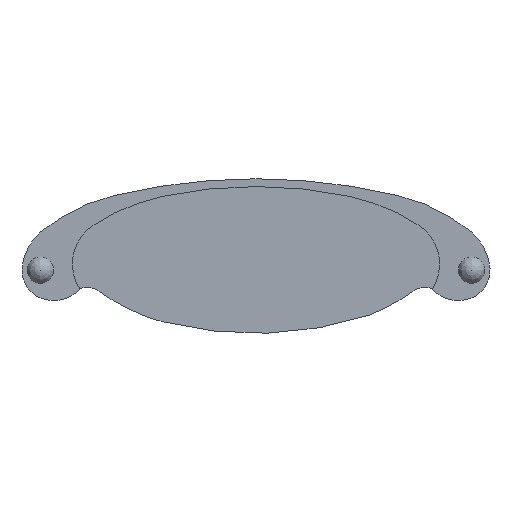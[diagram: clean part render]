
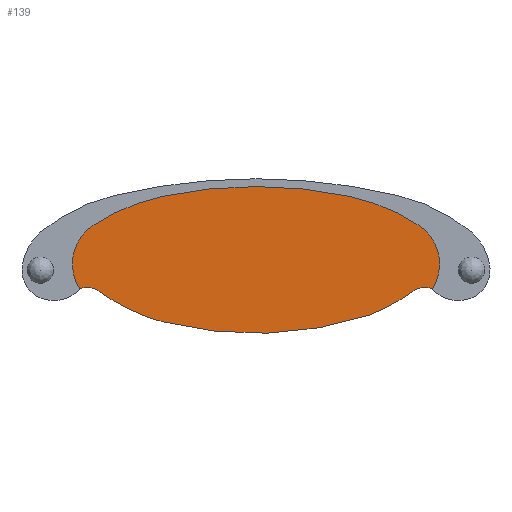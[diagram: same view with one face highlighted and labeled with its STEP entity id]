
A CAD part, front view. The second image highlights one B-rep face of the part: STEP entity #139.
In plain terms, the highlighted planar face has unit normal (0, -1, 0).
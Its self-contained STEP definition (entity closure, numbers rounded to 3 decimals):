
#139 = ADVANCED_FACE( '', ( #288 ), #289, .F. );
#288 = FACE_OUTER_BOUND( '', #510, .T. );
#289 = PLANE( '', #511 );
#510 = EDGE_LOOP( '', ( #805, #806, #807, #808, #809, #810, #811, #812, #813, #814, #815, #816 ) );
#511 = AXIS2_PLACEMENT_3D( '', #817, #818, #819 );
#805 = ORIENTED_EDGE( '', *, *, #1098, .T. );
#806 = ORIENTED_EDGE( '', *, *, #982, .F. );
#807 = ORIENTED_EDGE( '', *, *, #1099, .F. );
#808 = ORIENTED_EDGE( '', *, *, #1100, .F. );
#809 = ORIENTED_EDGE( '', *, *, #1065, .F. );
#810 = ORIENTED_EDGE( '', *, *, #1096, .F. );
#811 = ORIENTED_EDGE( '', *, *, #1101, .T. );
#812 = ORIENTED_EDGE( '', *, *, #1102, .F. );
#813 = ORIENTED_EDGE( '', *, *, #1091, .F. );
#814 = ORIENTED_EDGE( '', *, *, #1103, .F. );
#815 = ORIENTED_EDGE( '', *, *, #1104, .F. );
#816 = ORIENTED_EDGE( '', *, *, #1105, .F. );
#817 = CARTESIAN_POINT( '', ( -4.077, -22., -11.174 ) );
#818 = DIRECTION( '', ( 0., 1., 0. ) );
#819 = DIRECTION( '', ( 0., 0., 1. ) );
#982 = EDGE_CURVE( '', #1147, #1149, #1150, .T. );
#1065 = EDGE_CURVE( '', #1279, #1281, #1282, .T. );
#1091 = EDGE_CURVE( '', #1318, #1316, #1320, .T. );
#1096 = EDGE_CURVE( '', #1324, #1279, #1326, .T. );
#1098 = EDGE_CURVE( '', #1328, #1149, #1329, .T. );
#1099 = EDGE_CURVE( '', #1330, #1147, #1331, .T. );
#1100 = EDGE_CURVE( '', #1281, #1330, #1332, .T. );
#1101 = EDGE_CURVE( '', #1324, #1333, #1334, .T. );
#1102 = EDGE_CURVE( '', #1316, #1333, #1335, .T. );
#1103 = EDGE_CURVE( '', #1336, #1318, #1337, .T. );
#1104 = EDGE_CURVE( '', #1338, #1336, #1339, .T. );
#1105 = EDGE_CURVE( '', #1328, #1338, #1340, .T. );
#1147 = VERTEX_POINT( '', #1387 );
#1149 = VERTEX_POINT( '', #1390 );
#1150 = CIRCLE( '', #1391, 39.999 );
#1279 = VERTEX_POINT( '', #1542 );
#1281 = VERTEX_POINT( '', #1545 );
#1282 = CIRCLE( '', #1546, 78.284 );
#1316 = VERTEX_POINT( '', #1585 );
#1318 = VERTEX_POINT( '', #1588 );
#1320 = CIRCLE( '', #1591, 42.885 );
#1324 = VERTEX_POINT( '', #1596 );
#1326 = CIRCLE( '', #1599, 39.999 );
#1328 = VERTEX_POINT( '', #1601 );
#1329 = CIRCLE( '', #1602, 4.493 );
#1330 = VERTEX_POINT( '', #1603 );
#1331 = CIRCLE( '', #1604, 21.976 );
#1332 = LINE( '', #1605, #1606 );
#1333 = VERTEX_POINT( '', #1607 );
#1334 = CIRCLE( '', #1608, 4.493 );
#1335 = CIRCLE( '', #1609, 9.863 );
#1336 = VERTEX_POINT( '', #1610 );
#1337 = CIRCLE( '', #1611, 96.231 );
#1338 = VERTEX_POINT( '', #1612 );
#1339 = CIRCLE( '', #1613, 42.885 );
#1340 = CIRCLE( '', #1614, 9.863 );
#1387 = CARTESIAN_POINT( '', ( 7.777, -22., -12.585 ) );
#1390 = CARTESIAN_POINT( '', ( -1.404, -22., -7.563 ) );
#1391 = AXIS2_PLACEMENT_3D( '', #1660, #1661, #1662 );
#1542 = CARTESIAN_POINT( '', ( 56.243, -22., -12.585 ) );
#1545 = CARTESIAN_POINT( '', ( 12.43, -22., -14.067 ) );
#1546 = AXIS2_PLACEMENT_3D( '', #1812, #1813, #1814 );
#1585 = CARTESIAN_POINT( '', ( 66.798, -22., 6.513 ) );
#1588 = CARTESIAN_POINT( '', ( 51.983, -22., 12.737 ) );
#1591 = AXIS2_PLACEMENT_3D( '', #1861, #1862, #1863 );
#1596 = CARTESIAN_POINT( '', ( 65.424, -22., -7.563 ) );
#1599 = AXIS2_PLACEMENT_3D( '', #1866, #1867, #1868 );
#1601 = CARTESIAN_POINT( '', ( -5.648, -22., -6.965 ) );
#1602 = AXIS2_PLACEMENT_3D( '', #1869, #1870, #1871 );
#1603 = CARTESIAN_POINT( '', ( 12.424, -22., -14.065 ) );
#1604 = AXIS2_PLACEMENT_3D( '', #1872, #1873, #1874 );
#1605 = CARTESIAN_POINT( '', ( 12.43, -22., -14.067 ) );
#1606 = VECTOR( '', #1875, 1000. );
#1607 = CARTESIAN_POINT( '', ( 69.668, -22., -6.965 ) );
#1608 = AXIS2_PLACEMENT_3D( '', #1876, #1877, #1878 );
#1609 = AXIS2_PLACEMENT_3D( '', #1879, #1880, #1881 );
#1610 = CARTESIAN_POINT( '', ( 12.037, -22., 12.737 ) );
#1611 = AXIS2_PLACEMENT_3D( '', #1882, #1883, #1884 );
#1612 = CARTESIAN_POINT( '', ( -2.778, -22., 6.513 ) );
#1613 = AXIS2_PLACEMENT_3D( '', #1885, #1886, #1887 );
#1614 = AXIS2_PLACEMENT_3D( '', #1888, #1889, #1890 );
#1660 = CARTESIAN_POINT( '', ( 22.217, -22., 24.717 ) );
#1661 = DIRECTION( '', ( 0., 1., 0. ) );
#1662 = DIRECTION( '', ( 1., 0., 0. ) );
#1812 = CARTESIAN_POINT( '', ( 31.796, -22., 61.784 ) );
#1813 = DIRECTION( '', ( 0., 1., 0. ) );
#1814 = DIRECTION( '', ( 1., 0., 0. ) );
#1861 = CARTESIAN_POINT( '', ( 43.074, -22., -29.212 ) );
#1862 = DIRECTION( '', ( 0., 1., 0. ) );
#1863 = DIRECTION( '', ( 1., 0., 0. ) );
#1866 = CARTESIAN_POINT( '', ( 41.803, -22., 24.717 ) );
#1867 = DIRECTION( '', ( 0., 1., 0. ) );
#1868 = DIRECTION( '', ( 1., 0., 0. ) );
#1869 = CARTESIAN_POINT( '', ( -4.077, -22., -11.174 ) );
#1870 = DIRECTION( '', ( 0., 1., 0. ) );
#1871 = DIRECTION( '', ( 1., 0., 0. ) );
#1872 = CARTESIAN_POINT( '', ( 16.728, -22., 7.485 ) );
#1873 = DIRECTION( '', ( 0., 1., 0. ) );
#1874 = DIRECTION( '', ( 1., 0., 0. ) );
#1875 = DIRECTION( '', ( -0.949, 0., 0.316 ) );
#1876 = CARTESIAN_POINT( '', ( 68.097, -22., -11.174 ) );
#1877 = DIRECTION( '', ( 0., 1., 0. ) );
#1878 = DIRECTION( '', ( 1., 0., 0. ) );
#1879 = CARTESIAN_POINT( '', ( 61.33, -22., -1.696 ) );
#1880 = DIRECTION( '', ( 0., 1., 0. ) );
#1881 = DIRECTION( '', ( 1., 0., 0. ) );
#1882 = CARTESIAN_POINT( '', ( 32.01, -22., -81.398 ) );
#1883 = DIRECTION( '', ( 0., 1., 0. ) );
#1884 = DIRECTION( '', ( 1., 0., 0. ) );
#1885 = CARTESIAN_POINT( '', ( 20.946, -22., -29.212 ) );
#1886 = DIRECTION( '', ( 0., 1., 0. ) );
#1887 = DIRECTION( '', ( 1., 0., 0. ) );
#1888 = CARTESIAN_POINT( '', ( 2.69, -22., -1.696 ) );
#1889 = DIRECTION( '', ( 0., 1., 0. ) );
#1890 = DIRECTION( '', ( 1., 0., 0. ) );
